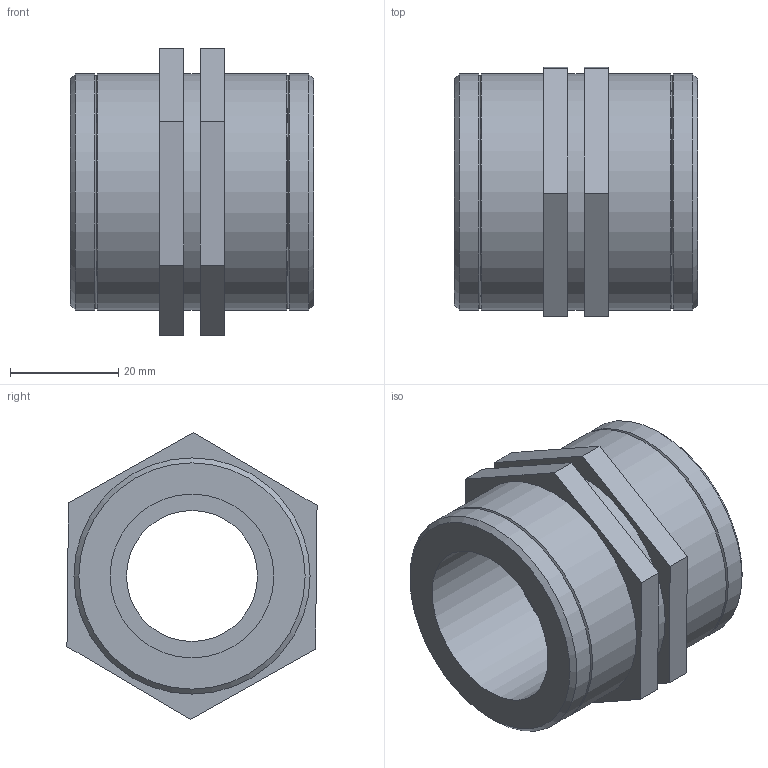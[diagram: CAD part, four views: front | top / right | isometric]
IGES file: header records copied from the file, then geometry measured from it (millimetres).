
Global section: file name: 050107010_0501070100A.ipt; native system: Autodesk Inventor 2015; preprocessor: unknown; author: KIM; date: 20170618.093103; units: millimetre
Bounding box: 45 x 46.28 x 53.11 mm (x, y, z)
Volume: 38691.5 mm3; surface area: 14027.4 mm2
Topology: 1 solids, 1 shells, 34 faces, 76 edges, 50 vertices
Faces by surface type: plane 20, cone 6, cylinder 5, revolution 3
Full cylindrical faces by diameter (mm): 43.7 x5
